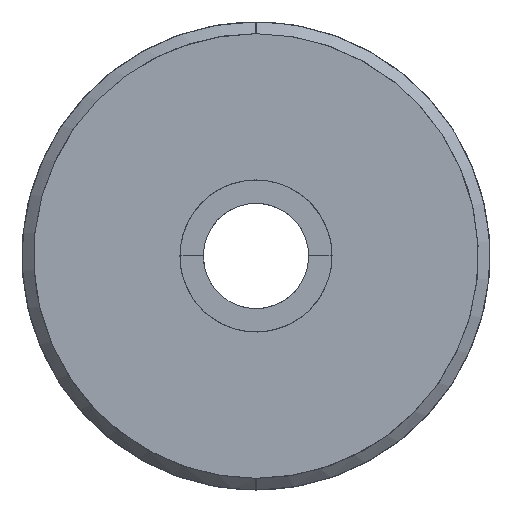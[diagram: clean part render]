
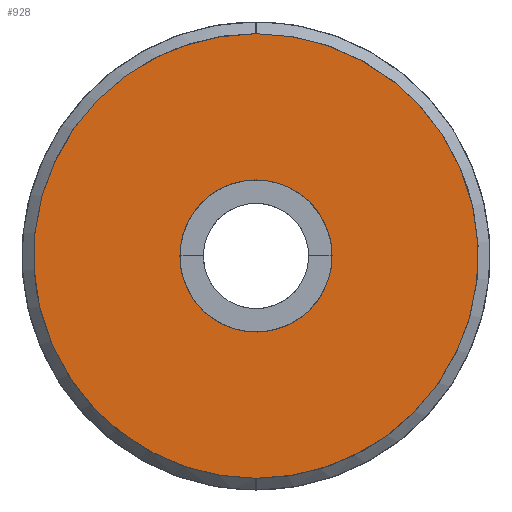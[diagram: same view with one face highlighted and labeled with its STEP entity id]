
A CAD part, front view. The second image highlights one B-rep face of the part: STEP entity #928.
In plain terms, the highlighted planar face has unit normal (0, -1, 0).
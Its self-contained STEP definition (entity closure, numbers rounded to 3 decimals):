
#817=CARTESIAN_POINT('Axis2P3D Location',(-38.212,0.,-38.)) ;
#823=CARTESIAN_POINT('Control Point',(0.003,0.,38.)) ;
#824=CARTESIAN_POINT('Control Point',(-5.963,0.,38.001)) ;
#825=CARTESIAN_POINT('Control Point',(-11.934,0.,36.761)) ;
#826=CARTESIAN_POINT('Control Point',(-17.501,0.,34.263)) ;
#827=CARTESIAN_POINT('Control Point',(-22.327,0.,30.755)) ;
#828=CARTESIAN_POINT('Vertex',(0.003,0.,38.)) ;
#830=CARTESIAN_POINT('Vertex',(-22.327,0.,30.755)) ;
#834=CARTESIAN_POINT('Control Point',(-22.327,0.,30.755)) ;
#835=CARTESIAN_POINT('Control Point',(-31.549,0.,24.053)) ;
#836=CARTESIAN_POINT('Control Point',(-38.128,0.,13.584)) ;
#837=CARTESIAN_POINT('Control Point',(-39.655,0.,1.312)) ;
#838=CARTESIAN_POINT('Control Point',(-36.745,0.,-9.711)) ;
#839=CARTESIAN_POINT('Vertex',(-36.745,0.,-9.711)) ;
#843=CARTESIAN_POINT('Control Point',(-36.745,0.,-9.711)) ;
#844=CARTESIAN_POINT('Control Point',(-33.565,0.,-21.752)) ;
#845=CARTESIAN_POINT('Control Point',(-25.026,0.,-32.468)) ;
#846=CARTESIAN_POINT('Control Point',(-12.448,0.,-38.001)) ;
#847=CARTESIAN_POINT('Control Point',(0.001,0.,-38.)) ;
#848=CARTESIAN_POINT('Vertex',(0.001,0.,-38.)) ;
#852=CARTESIAN_POINT('Control Point',(0.001,0.,-38.)) ;
#853=CARTESIAN_POINT('Control Point',(7.431,0.,-38.)) ;
#854=CARTESIAN_POINT('Control Point',(14.87,0.,-36.06)) ;
#855=CARTESIAN_POINT('Control Point',(21.515,0.,-32.193)) ;
#856=CARTESIAN_POINT('Control Point',(26.785,0.,-26.957)) ;
#857=CARTESIAN_POINT('Vertex',(26.785,0.,-26.957)) ;
#861=CARTESIAN_POINT('Control Point',(26.785,0.,-26.957)) ;
#862=CARTESIAN_POINT('Control Point',(34.861,0.,-18.933)) ;
#863=CARTESIAN_POINT('Control Point',(39.768,0.,-7.597)) ;
#864=CARTESIAN_POINT('Control Point',(39.382,0.,4.749)) ;
#865=CARTESIAN_POINT('Control Point',(34.834,0.,15.185)) ;
#866=CARTESIAN_POINT('Vertex',(34.834,0.,15.185)) ;
#870=CARTESIAN_POINT('Control Point',(34.834,0.,15.185)) ;
#871=CARTESIAN_POINT('Control Point',(30.438,0.,25.275)) ;
#872=CARTESIAN_POINT('Control Point',(22.09,0.,33.722)) ;
#873=CARTESIAN_POINT('Control Point',(11.009,0.,37.999)) ;
#874=CARTESIAN_POINT('Control Point',(0.003,0.,38.)) ;
#885=CARTESIAN_POINT('Control Point',(-13.003,0.,0.003)) ;
#886=CARTESIAN_POINT('Control Point',(-12.994,0.,0.322)) ;
#887=CARTESIAN_POINT('Control Point',(-12.983,0.,0.641)) ;
#888=CARTESIAN_POINT('Control Point',(-12.917,0.,1.917)) ;
#889=CARTESIAN_POINT('Control Point',(-12.661,0.,3.174)) ;
#890=CARTESIAN_POINT('Control Point',(-12.005,0.,5.321)) ;
#891=CARTESIAN_POINT('Control Point',(-10.881,0.,7.269)) ;
#892=CARTESIAN_POINT('Control Point',(-8.53,0.,10.332)) ;
#893=CARTESIAN_POINT('Control Point',(-5.111,0.,12.326)) ;
#894=CARTESIAN_POINT('Control Point',(-0.422,0.,13.563)) ;
#895=CARTESIAN_POINT('Control Point',(4.246,0.,12.52)) ;
#896=CARTESIAN_POINT('Control Point',(8.984,0.,10.319)) ;
#897=CARTESIAN_POINT('Control Point',(12.075,0.,5.956)) ;
#898=CARTESIAN_POINT('Control Point',(12.995,0.,2.977)) ;
#899=CARTESIAN_POINT('Control Point',(12.996,0.,0.001)) ;
#900=CARTESIAN_POINT('Vertex',(-13.003,0.,0.003)) ;
#902=CARTESIAN_POINT('Vertex',(12.996,0.,0.001)) ;
#906=CARTESIAN_POINT('Control Point',(12.996,0.,0.001)) ;
#907=CARTESIAN_POINT('Control Point',(12.997,0.,-3.824)) ;
#908=CARTESIAN_POINT('Control Point',(11.494,0.,-7.683)) ;
#909=CARTESIAN_POINT('Control Point',(8.511,0.,-10.552)) ;
#910=CARTESIAN_POINT('Control Point',(4.972,0.,-12.007)) ;
#911=CARTESIAN_POINT('Vertex',(4.972,0.,-12.007)) ;
#915=CARTESIAN_POINT('Control Point',(4.972,0.,-12.007)) ;
#916=CARTESIAN_POINT('Control Point',(1.827,0.,-13.301)) ;
#917=CARTESIAN_POINT('Control Point',(-1.779,0.,-13.498)) ;
#918=CARTESIAN_POINT('Control Point',(-8.226,0.,-11.412)) ;
#919=CARTESIAN_POINT('Control Point',(-12.092,0.,-5.965)) ;
#920=CARTESIAN_POINT('Control Point',(-13.004,0.,-2.976)) ;
#921=CARTESIAN_POINT('Control Point',(-13.003,0.,0.003)) ;
#818=DIRECTION('Axis2P3D Direction',(0.,-1.,0.)) ;
#819=DIRECTION('Axis2P3D XDirection',(1.,0.,0.)) ;
#820=AXIS2_PLACEMENT_3D('Plane Axis2P3D',#817,#818,#819) ;
#877=ORIENTED_EDGE('',*,*,#832,.T.) ;
#878=ORIENTED_EDGE('',*,*,#841,.T.) ;
#879=ORIENTED_EDGE('',*,*,#850,.T.) ;
#880=ORIENTED_EDGE('',*,*,#859,.T.) ;
#881=ORIENTED_EDGE('',*,*,#868,.T.) ;
#882=ORIENTED_EDGE('',*,*,#875,.T.) ;
#924=ORIENTED_EDGE('',*,*,#904,.T.) ;
#925=ORIENTED_EDGE('',*,*,#913,.T.) ;
#926=ORIENTED_EDGE('',*,*,#922,.T.) ;
#927=FACE_BOUND('',#923,.T.) ;
#928=ADVANCED_FACE('FACE7',(#883,#927),#821,.T.) ;
#822=B_SPLINE_CURVE_WITH_KNOTS('',4,(#823,#824,#825,#826,#827),.UNSPECIFIED.,.F.,.U.,(5,5),(0.,24.133),.UNSPECIFIED.) ;
#833=B_SPLINE_CURVE_WITH_KNOTS('',4,(#834,#835,#836,#837,#838),.UNSPECIFIED.,.F.,.U.,(5,5),(0.,47.532),.UNSPECIFIED.) ;
#842=B_SPLINE_CURVE_WITH_KNOTS('',4,(#843,#844,#845,#846,#847),.UNSPECIFIED.,.F.,.U.,(5,5),(0.,52.346),.UNSPECIFIED.) ;
#851=B_SPLINE_CURVE_WITH_KNOTS('',4,(#852,#853,#854,#855,#856),.UNSPECIFIED.,.F.,.U.,(5,5),(0.,30.234),.UNSPECIFIED.) ;
#860=B_SPLINE_CURVE_WITH_KNOTS('',4,(#861,#862,#863,#864,#865),.UNSPECIFIED.,.F.,.U.,(5,5),(0.,47.473),.UNSPECIFIED.) ;
#869=B_SPLINE_CURVE_WITH_KNOTS('',4,(#870,#871,#872,#873,#874),.UNSPECIFIED.,.F.,.U.,(5,5),(0.,45.765),.UNSPECIFIED.) ;
#884=B_SPLINE_CURVE_WITH_KNOTS('',4,(#885,#886,#887,#888,#889,#890,#891,#892,#893,#894,#895,#896,#897,#898,#899),.UNSPECIFIED.,.F.,.U.,(5,2,2,2,2,2,5),(0.,1.305,5.222,10.448,20.899,29.616,41.809),.UNSPECIFIED.) ;
#905=B_SPLINE_CURVE_WITH_KNOTS('',4,(#906,#907,#908,#909,#910),.UNSPECIFIED.,.F.,.U.,(5,5),(0.,15.932),.UNSPECIFIED.) ;
#914=B_SPLINE_CURVE_WITH_KNOTS('',4,(#915,#916,#917,#918,#919,#920,#921),.UNSPECIFIED.,.F.,.U.,(5,2,5),(0.,14.161,26.571),.UNSPECIFIED.) ;
#832=EDGE_CURVE('',#829,#831,#822,.T.) ;
#841=EDGE_CURVE('',#831,#840,#833,.T.) ;
#850=EDGE_CURVE('',#840,#849,#842,.T.) ;
#859=EDGE_CURVE('',#849,#858,#851,.T.) ;
#868=EDGE_CURVE('',#858,#867,#860,.T.) ;
#875=EDGE_CURVE('',#867,#829,#869,.T.) ;
#904=EDGE_CURVE('',#901,#903,#884,.T.) ;
#913=EDGE_CURVE('',#903,#912,#905,.T.) ;
#922=EDGE_CURVE('',#912,#901,#914,.T.) ;
#876=EDGE_LOOP('',(#877,#878,#879,#880,#881,#882)) ;
#923=EDGE_LOOP('',(#924,#925,#926)) ;
#883=FACE_OUTER_BOUND('',#876,.T.) ;
#821=PLANE('Plane',#820) ;
#829=VERTEX_POINT('',#828) ;
#831=VERTEX_POINT('',#830) ;
#840=VERTEX_POINT('',#839) ;
#849=VERTEX_POINT('',#848) ;
#858=VERTEX_POINT('',#857) ;
#867=VERTEX_POINT('',#866) ;
#901=VERTEX_POINT('',#900) ;
#903=VERTEX_POINT('',#902) ;
#912=VERTEX_POINT('',#911) ;
